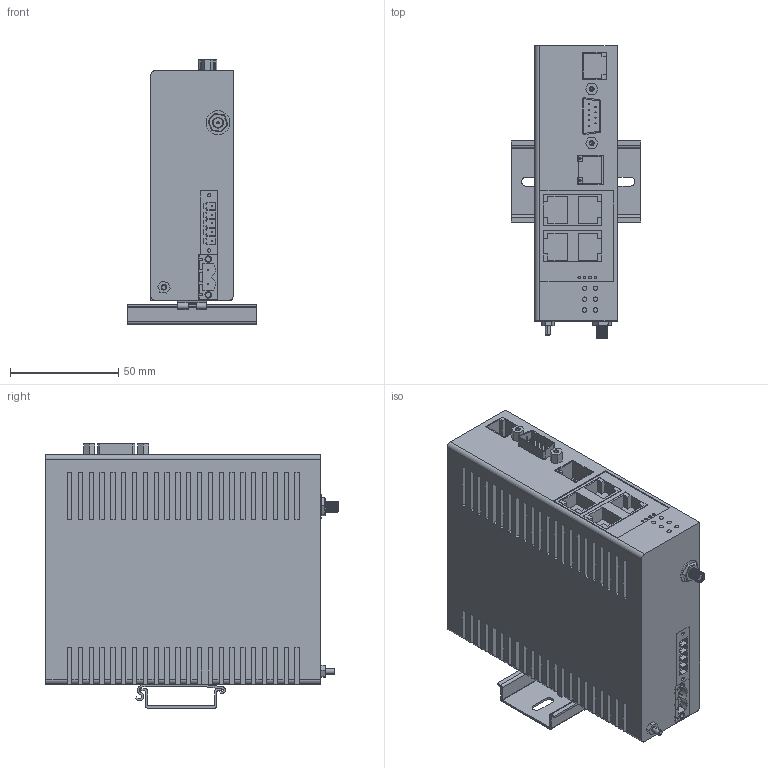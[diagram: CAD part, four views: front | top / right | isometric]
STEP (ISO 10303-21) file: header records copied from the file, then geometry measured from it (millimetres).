
FILE_DESCRIPTION (( 'STEP AP214' ), '1' );
FILE_NAME ('Assemby_1_ eWON2005CD.STEP', '2011-09-20T19:42:30', ( 'Pie O' ), ( 'HP' ), 'SwSTEP 2.0', 'SolidWorks 2010', '' );
FILE_SCHEMA (( 'AUTOMOTIVE_DESIGN' ));
Length unit declared in the file: millimetre
Products named in the file (3): Part eWON2005CD_Défaut<Brut d''usinage>; User Library-din rail_Default; Assemby_1_ eWON2005CD
Assembly tree (2 placements, depth 2):
  Assemby_1_ eWON2005CD
    User Library-din rail_Default
    Part eWON2005CD_Défaut<Brut d''usinage>
Bounding box: 60 x 135 x 122 mm (x, y, z)
Volume: 496307.9 mm3; surface area: 74122.1 mm2
Topology: 56 solids, 56 shells, 1044 faces, 2539 edges, 1663 vertices
Faces by surface type: plane 759, cylinder 237, sphere 20, bspline 16, cone 12
Entity records: 35953 total; most frequent: CARTESIAN_POINT 6699, DIRECTION 4995, ORIENTED_EDGE 4978, EDGE_CURVE 2489, VECTOR 1949, LINE 1949, VERTEX_POINT 1641, AXIS2_PLACEMENT_3D 1523
